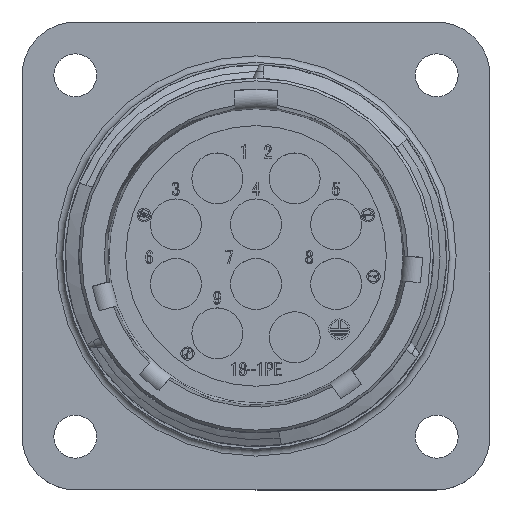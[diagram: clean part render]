
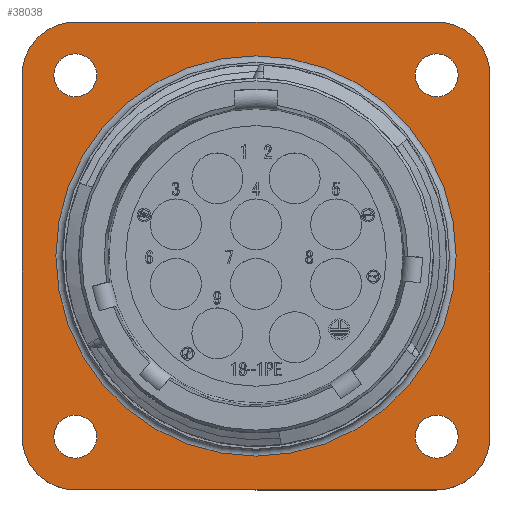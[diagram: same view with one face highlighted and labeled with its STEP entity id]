
A CAD part, top view. The second image highlights one B-rep face of the part: STEP entity #38038.
In plain terms, the highlighted planar face has unit normal (0, 0, 1).
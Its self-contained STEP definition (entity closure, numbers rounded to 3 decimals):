
#2 = CARTESIAN_POINT ( 'NONE',  ( 17.46, -13.46, -19.9 ) ) ;
#478 = CARTESIAN_POINT ( 'NONE',  ( 17.46, 13.46, -19.9 ) ) ;
#566 = DIRECTION ( 'NONE',  ( 1., 0., 0. ) ) ;
#890 = VECTOR ( 'NONE', #22485, 1000. ) ;
#1002 = CARTESIAN_POINT ( 'NONE',  ( -15.085, -13.485, -19.9 ) ) ;
#1166 = ORIENTED_EDGE ( 'NONE', *, *, #32134, .F. ) ;
#1310 = DIRECTION ( 'NONE',  ( 1., 0., 0. ) ) ;
#2323 = VERTEX_POINT ( 'NONE', #3757 ) ;
#3629 = CARTESIAN_POINT ( 'NONE',  ( 13.46, 17.46, -19.9 ) ) ;
#3757 = CARTESIAN_POINT ( 'NONE',  ( -14.935, 0., -19.9 ) ) ;
#3765 = CARTESIAN_POINT ( 'NONE',  ( -13.46, -17.46, -19.9 ) ) ;
#4145 = CARTESIAN_POINT ( 'NONE',  ( -17.46, 13.46, -19.9 ) ) ;
#4327 = CIRCLE ( 'NONE', #18528, 1.6 ) ;
#4818 = AXIS2_PLACEMENT_3D ( 'NONE', #10125, #34719, #28833 ) ;
#4947 = VERTEX_POINT ( 'NONE', #3765 ) ;
#5042 = CIRCLE ( 'NONE', #9886, 4. ) ;
#5302 = CIRCLE ( 'NONE', #11567, 1.6 ) ;
#6464 = CARTESIAN_POINT ( 'NONE',  ( 13.485, -13.485, -19.9 ) ) ;
#6543 = DIRECTION ( 'NONE',  ( 1., 0., 0. ) ) ;
#7158 = FACE_BOUND ( 'NONE', #19020, .T. ) ;
#7167 = EDGE_LOOP ( 'NONE', ( #8808 ) ) ;
#7358 = EDGE_CURVE ( 'NONE', #39071, #9727, #10412, .T. ) ;
#7386 = CARTESIAN_POINT ( 'NONE',  ( 13.485, 13.485, -19.9 ) ) ;
#7493 = VECTOR ( 'NONE', #11997, 1000. ) ;
#7833 = DIRECTION ( 'NONE',  ( -1., 0., 0. ) ) ;
#7981 = LINE ( 'NONE', #4145, #890 ) ;
#8124 = CARTESIAN_POINT ( 'NONE',  ( -17.46, 13.46, -19.9 ) ) ;
#8619 = AXIS2_PLACEMENT_3D ( 'NONE', #16082, #15958, #566 ) ;
#8808 = ORIENTED_EDGE ( 'NONE', *, *, #24347, .T. ) ;
#9351 = ORIENTED_EDGE ( 'NONE', *, *, #37454, .F. ) ;
#9727 = VERTEX_POINT ( 'NONE', #34507 ) ;
#9750 = CARTESIAN_POINT ( 'NONE',  ( 11.885, 13.485, -19.9 ) ) ;
#9886 = AXIS2_PLACEMENT_3D ( 'NONE', #12525, #21840, #18927 ) ;
#10125 = CARTESIAN_POINT ( 'NONE',  ( 0., 0., -19.9 ) ) ;
#10274 = CIRCLE ( 'NONE', #26472, 1.6 ) ;
#10408 = AXIS2_PLACEMENT_3D ( 'NONE', #24878, #18787, #6543 ) ;
#10412 = CIRCLE ( 'NONE', #8619, 4. ) ;
#11301 = EDGE_CURVE ( 'NONE', #4947, #31504, #5042, .T. ) ;
#11314 = VERTEX_POINT ( 'NONE', #31015 ) ;
#11450 = EDGE_CURVE ( 'NONE', #26989, #16681, #17407, .T. ) ;
#11567 = AXIS2_PLACEMENT_3D ( 'NONE', #34672, #25100, #19134 ) ;
#11895 = DIRECTION ( 'NONE',  ( 0., 0., -1. ) ) ;
#11997 = DIRECTION ( 'NONE',  ( 0., -1., 0. ) ) ;
#12111 = ORIENTED_EDGE ( 'NONE', *, *, #33935, .T. ) ;
#12133 = CARTESIAN_POINT ( 'NONE',  ( 17.46, 13.46, -19.9 ) ) ;
#12390 = EDGE_CURVE ( 'NONE', #2323, #2323, #26439, .T. ) ;
#12525 = CARTESIAN_POINT ( 'NONE',  ( -13.46, -13.46, -19.9 ) ) ;
#13044 = CARTESIAN_POINT ( 'NONE',  ( -11.885, 13.485, -19.9 ) ) ;
#14243 = FACE_BOUND ( 'NONE', #30781, .T. ) ;
#14942 = DIRECTION ( 'NONE',  ( 0., 0., -1. ) ) ;
#15091 = AXIS2_PLACEMENT_3D ( 'NONE', #29976, #11895, #33044 ) ;
#15580 = LINE ( 'NONE', #12133, #7493 ) ;
#15620 = VERTEX_POINT ( 'NONE', #9750 ) ;
#15793 = CARTESIAN_POINT ( 'NONE',  ( -13.46, 17.46, -19.9 ) ) ;
#15958 = DIRECTION ( 'NONE',  ( 0., 0., -1. ) ) ;
#16082 = CARTESIAN_POINT ( 'NONE',  ( 13.46, -13.46, -19.9 ) ) ;
#16495 = CARTESIAN_POINT ( 'NONE',  ( 13.46, -17.46, -19.9 ) ) ;
#16590 = EDGE_CURVE ( 'NONE', #15620, #15620, #21082, .T. ) ;
#16681 = VERTEX_POINT ( 'NONE', #34890 ) ;
#17407 = LINE ( 'NONE', #3629, #33122 ) ;
#18145 = PLANE ( 'NONE',  #31391 ) ;
#18528 = AXIS2_PLACEMENT_3D ( 'NONE', #19694, #23380, #7833 ) ;
#18634 = VECTOR ( 'NONE', #34302, 1000. ) ;
#18787 = DIRECTION ( 'NONE',  ( 0., 0., -1. ) ) ;
#18927 = DIRECTION ( 'NONE',  ( 1., 0., 0. ) ) ;
#19020 = EDGE_LOOP ( 'NONE', ( #25348 ) ) ;
#19134 = DIRECTION ( 'NONE',  ( 1., 0., 0. ) ) ;
#19694 = CARTESIAN_POINT ( 'NONE',  ( -13.485, -13.485, -19.9 ) ) ;
#19875 = DIRECTION ( 'NONE',  ( -1., 0., 0. ) ) ;
#20699 = ORIENTED_EDGE ( 'NONE', *, *, #11450, .F. ) ;
#20900 = ORIENTED_EDGE ( 'NONE', *, *, #12390, .T. ) ;
#21082 = CIRCLE ( 'NONE', #38042, 1.6 ) ;
#21840 = DIRECTION ( 'NONE',  ( 0., 0., -1. ) ) ;
#22485 = DIRECTION ( 'NONE',  ( 0., 1., 0. ) ) ;
#23144 = EDGE_LOOP ( 'NONE', ( #25842 ) ) ;
#23315 = FACE_BOUND ( 'NONE', #35455, .T. ) ;
#23380 = DIRECTION ( 'NONE',  ( 0., 0., -1. ) ) ;
#24347 = EDGE_CURVE ( 'NONE', #30841, #30841, #5302, .T. ) ;
#24719 = ORIENTED_EDGE ( 'NONE', *, *, #7358, .F. ) ;
#24878 = CARTESIAN_POINT ( 'NONE',  ( 13.46, 13.46, -19.9 ) ) ;
#25100 = DIRECTION ( 'NONE',  ( 0., 0., -1. ) ) ;
#25131 = EDGE_CURVE ( 'NONE', #9727, #4947, #30985, .T. ) ;
#25348 = ORIENTED_EDGE ( 'NONE', *, *, #16590, .T. ) ;
#25838 = DIRECTION ( 'NONE',  ( 0., 0., -1. ) ) ;
#25842 = ORIENTED_EDGE ( 'NONE', *, *, #27536, .T. ) ;
#26319 = VERTEX_POINT ( 'NONE', #8124 ) ;
#26439 = CIRCLE ( 'NONE', #4818, 14.935 ) ;
#26472 = AXIS2_PLACEMENT_3D ( 'NONE', #6464, #37300, #27970 ) ;
#26989 = VERTEX_POINT ( 'NONE', #15793 ) ;
#27536 = EDGE_CURVE ( 'NONE', #33235, #33235, #4327, .T. ) ;
#27970 = DIRECTION ( 'NONE',  ( 1., 0., 0. ) ) ;
#28066 = FACE_BOUND ( 'NONE', #23144, .T. ) ;
#28242 = ORIENTED_EDGE ( 'NONE', *, *, #25131, .F. ) ;
#28324 = ORIENTED_EDGE ( 'NONE', *, *, #32901, .F. ) ;
#28368 = EDGE_LOOP ( 'NONE', ( #9351, #30454, #37111, #28242, #24719, #1166, #28324, #20699 ) ) ;
#28833 = DIRECTION ( 'NONE',  ( -1., 0., 0. ) ) ;
#29878 = CARTESIAN_POINT ( 'NONE',  ( -17.46, -13.46, -19.9 ) ) ;
#29973 = VERTEX_POINT ( 'NONE', #478 ) ;
#29976 = CARTESIAN_POINT ( 'NONE',  ( -13.46, 13.46, -19.9 ) ) ;
#30232 = CARTESIAN_POINT ( 'NONE',  ( -13.46, 13.46, -19.9 ) ) ;
#30454 = ORIENTED_EDGE ( 'NONE', *, *, #31334, .F. ) ;
#30781 = EDGE_LOOP ( 'NONE', ( #20900 ) ) ;
#30841 = VERTEX_POINT ( 'NONE', #13044 ) ;
#30985 = LINE ( 'NONE', #16495, #18634 ) ;
#31015 = CARTESIAN_POINT ( 'NONE',  ( 15.085, -13.485, -19.9 ) ) ;
#31334 = EDGE_CURVE ( 'NONE', #31504, #26319, #7981, .T. ) ;
#31391 = AXIS2_PLACEMENT_3D ( 'NONE', #30232, #14942, #39023 ) ;
#31504 = VERTEX_POINT ( 'NONE', #29878 ) ;
#32134 = EDGE_CURVE ( 'NONE', #29973, #39071, #15580, .T. ) ;
#32901 = EDGE_CURVE ( 'NONE', #16681, #29973, #38874, .T. ) ;
#33044 = DIRECTION ( 'NONE',  ( -1., 0., 0. ) ) ;
#33122 = VECTOR ( 'NONE', #1310, 1000. ) ;
#33235 = VERTEX_POINT ( 'NONE', #1002 ) ;
#33935 = EDGE_CURVE ( 'NONE', #11314, #11314, #10274, .T. ) ;
#34302 = DIRECTION ( 'NONE',  ( -1., 0., 0. ) ) ;
#34507 = CARTESIAN_POINT ( 'NONE',  ( 13.46, -17.46, -19.9 ) ) ;
#34672 = CARTESIAN_POINT ( 'NONE',  ( -13.485, 13.485, -19.9 ) ) ;
#34719 = DIRECTION ( 'NONE',  ( 0., 0., -1. ) ) ;
#34890 = CARTESIAN_POINT ( 'NONE',  ( 13.46, 17.46, -19.9 ) ) ;
#35455 = EDGE_LOOP ( 'NONE', ( #12111 ) ) ;
#35661 = CIRCLE ( 'NONE', #15091, 4. ) ;
#36182 = FACE_OUTER_BOUND ( 'NONE', #28368, .T. ) ;
#37111 = ORIENTED_EDGE ( 'NONE', *, *, #11301, .F. ) ;
#37128 = FACE_BOUND ( 'NONE', #7167, .T. ) ;
#37300 = DIRECTION ( 'NONE',  ( 0., 0., -1. ) ) ;
#37454 = EDGE_CURVE ( 'NONE', #26319, #26989, #35661, .T. ) ;
#38038 = ADVANCED_FACE ( 'NONE', ( #14243, #23315, #37128, #36182, #7158, #28066 ), #18145, .F. ) ;
#38042 = AXIS2_PLACEMENT_3D ( 'NONE', #7386, #25838, #19875 ) ;
#38874 = CIRCLE ( 'NONE', #10408, 4. ) ;
#39023 = DIRECTION ( 'NONE',  ( -1., 0., 0. ) ) ;
#39071 = VERTEX_POINT ( 'NONE', #2 ) ;
